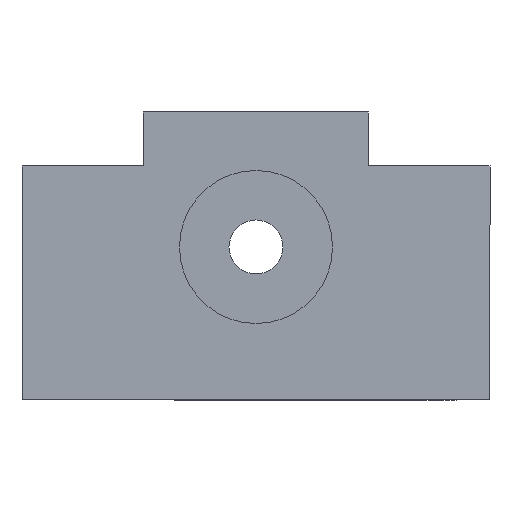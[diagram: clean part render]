
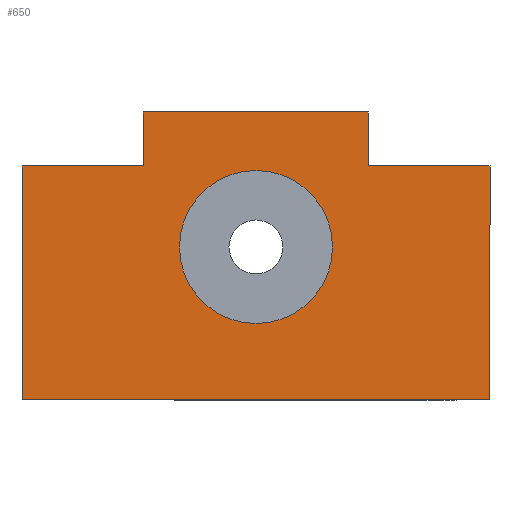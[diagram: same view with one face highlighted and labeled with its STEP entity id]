
A CAD part, left-side view. The second image highlights one B-rep face of the part: STEP entity #650.
In plain terms, the highlighted planar face has unit normal (-1, 0, 0).
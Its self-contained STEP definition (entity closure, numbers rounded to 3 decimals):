
#360=CARTESIAN_POINT('',(0.0,8.5,0.));
#361=VERTEX_POINT('',#360);
#362=CARTESIAN_POINT('',(0.0,0.0,0.0));
#363=DIRECTION('',(1.0,0.0,0.0));
#364=DIRECTION('',(0.0,-1.0,0.0));
#365=AXIS2_PLACEMENT_3D('',#362,#363,#364);
#366=CIRCLE('',#365,8.5);
#367=EDGE_CURVE('',#361,#361,#366,.T.);
#387=CARTESIAN_POINT('',(0.0,-26.,9.));
#388=VERTEX_POINT('',#387);
#395=CARTESIAN_POINT('',(0.0,-26.,-17.));
#396=VERTEX_POINT('',#395);
#397=CARTESIAN_POINT('',(0.0,-26.,9.));
#398=DIRECTION('',(0.0,0.0,-1.0));
#399=VECTOR('',#398,26.0);
#400=LINE('',#397,#399);
#401=EDGE_CURVE('',#388,#396,#400,.T.);
#425=CARTESIAN_POINT('',(0.0,-12.5,9.0));
#426=VERTEX_POINT('',#425);
#433=CARTESIAN_POINT('',(0.0,-12.5,9.0));
#434=DIRECTION('',(0.0,-1.0,0.0));
#435=VECTOR('',#434,13.5);
#436=LINE('',#433,#435);
#437=EDGE_CURVE('',#426,#388,#436,.T.);
#459=CARTESIAN_POINT('',(0.0,-12.5,15.0));
#460=VERTEX_POINT('',#459);
#467=CARTESIAN_POINT('',(0.0,-12.5,15.0));
#468=DIRECTION('',(0.0,0.0,-1.0));
#469=VECTOR('',#468,6.0);
#470=LINE('',#467,#469);
#471=EDGE_CURVE('',#460,#426,#470,.T.);
#490=CARTESIAN_POINT('',(0.0,12.5,15.0));
#491=VERTEX_POINT('',#490);
#498=CARTESIAN_POINT('',(0.0,12.5,15.0));
#499=DIRECTION('',(0.0,-1.0,0.0));
#500=VECTOR('',#499,25.);
#501=LINE('',#498,#500);
#502=EDGE_CURVE('',#491,#460,#501,.T.);
#521=CARTESIAN_POINT('',(0.0,12.5,9.0));
#522=VERTEX_POINT('',#521);
#529=CARTESIAN_POINT('',(0.0,12.5,9.0));
#530=DIRECTION('',(0.0,0.0,1.0));
#531=VECTOR('',#530,6.0);
#532=LINE('',#529,#531);
#533=EDGE_CURVE('',#522,#491,#532,.T.);
#552=CARTESIAN_POINT('',(0.0,26.,9.));
#553=VERTEX_POINT('',#552);
#560=CARTESIAN_POINT('',(0.0,26.,9.));
#561=DIRECTION('',(0.0,-1.0,0.0));
#562=VECTOR('',#561,13.5);
#563=LINE('',#560,#562);
#564=EDGE_CURVE('',#553,#522,#563,.T.);
#586=CARTESIAN_POINT('',(0.0,26.,-17.));
#587=VERTEX_POINT('',#586);
#594=CARTESIAN_POINT('',(0.0,26.,-17.));
#595=DIRECTION('',(0.0,0.0,1.0));
#596=VECTOR('',#595,26.0);
#597=LINE('',#594,#596);
#598=EDGE_CURVE('',#587,#553,#597,.T.);
#616=CARTESIAN_POINT('',(0.0,-26.,-17.));
#617=DIRECTION('',(0.0,1.0,0.0));
#618=VECTOR('',#617,52.);
#619=LINE('',#616,#618);
#620=EDGE_CURVE('',#396,#587,#619,.T.);
#632=CARTESIAN_POINT('',(0.0,0.,-1.964));
#633=DIRECTION('',(1.0,0.0,0.0));
#634=DIRECTION('',(0.0,0.0,-1.0));
#635=AXIS2_PLACEMENT_3D('',#632,#633,#634);
#636=PLANE('',#635);
#637=ORIENTED_EDGE('',*,*,#620,.F.);
#638=ORIENTED_EDGE('',*,*,#401,.F.);
#639=ORIENTED_EDGE('',*,*,#437,.F.);
#640=ORIENTED_EDGE('',*,*,#471,.F.);
#641=ORIENTED_EDGE('',*,*,#502,.F.);
#642=ORIENTED_EDGE('',*,*,#533,.F.);
#643=ORIENTED_EDGE('',*,*,#564,.F.);
#644=ORIENTED_EDGE('',*,*,#598,.F.);
#645=EDGE_LOOP('',(#637,#638,#639,#640,#641,#642,#643,#644));
#646=FACE_OUTER_BOUND('',#645,.T.);
#647=ORIENTED_EDGE('',*,*,#367,.T.);
#648=EDGE_LOOP('',(#647));
#649=FACE_BOUND('',#648,.T.);
#650=ADVANCED_FACE('',(#646,#649),#636,.F.);
